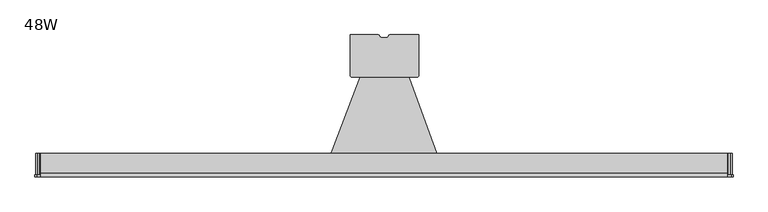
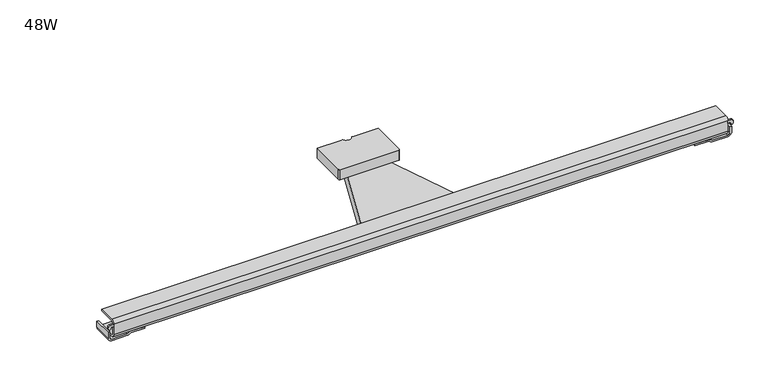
"""IFC4 building model written with IfcOpenShell, lengths in millimetres: furniture geometry, Steelcase Turnstone - Bivi - Accessories - Monitor Arm Table Mount : 48W."""

from ifc_helpers import new_model, si_unit, point, frame, frame_2d, origin, place, context, project, spatial, polyline, circle_curve, trimmed, segment, composite_curve, outline, extrude, source, transform, mapped, element, save


def furniture_48w_e2995653(model_context):
    return source(origin(), model_context, "Body", "SweptSolid", [
        extrude(outline(composite_curve([segment(polyline([(159.9850492, 267.6260521), (53.6515376, 267.6260521)]), True, "CONTINUOUS"), segment(trimmed(circle_curve(frame_2d((53.6515376, 269.8377216)), 2.2116695), [point((53.6515376, 267.6260521))], [point((51.4398681, 269.8377216))], False, "CARTESIAN"), True, "CONTINUOUS"), segment(polyline([(51.4398681, 269.8377216), (51.4398681, 336.626034), (96.429124, 336.626034)]), True, "CONTINUOUS"), segment(trimmed(circle_curve(frame_2d((96.3769126, 334.3703641)), 2.2562741), [point((96.429124, 336.626034))], [point((98.3973037, 335.3747509))], False, "CARTESIAN"), True, "CONTINUOUS"), segment(trimmed(circle_curve(frame_2d((104.4791205, 338.3981738)), 6.7918762), [point((98.3973037, 335.3747509))], [point((99.5126263, 333.7653003))], True, "CARTESIAN"), True, "CONTINUOUS"), segment(trimmed(circle_curve(frame_2d((104.4791205, 338.3981738)), 6.7918762), [point((99.5126263, 333.7653003))], [point((103.9615653, 331.6260458))], True, "CARTESIAN"), True, "CONTINUOUS"), segment(trimmed(circle_curve(frame_2d((106.0453771, 358.8923961)), 27.3458613), [point((103.9615653, 331.6260458))], [point((108.1291888, 331.6260458))], True, "CARTESIAN"), True, "CONTINUOUS"), segment(trimmed(circle_curve(frame_2d((107.6120183, 338.3931418)), 6.7868295), [point((108.1291888, 331.6260458))], [point((113.6913493, 335.3760591))], True, "CARTESIAN"), True, "CONTINUOUS"), segment(trimmed(circle_curve(frame_2d((115.7071375, 334.3756531)), 2.2503809), [point((113.6913493, 335.3760591))], [point((115.7071375, 336.626034))], False, "CARTESIAN"), True, "CONTINUOUS"), segment(polyline([(115.7071375, 336.626034), (162.2429472, 336.626034), (162.2429472, 269.8838873)]), True, "CONTINUOUS"), segment(trimmed(circle_curve(frame_2d((159.9850492, 269.8839501)), 2.257898), [point((162.2429472, 269.8838873))], [point((159.9850492, 267.6260521))], False, "CARTESIAN"), True, "CONTINUOUS")], self_intersect=False)), frame((0.0, 0.0, 691.6834103), z_axis=(0.0, 0.0, 1.0), x_axis=(1.0, 0.0, 0.0)), (0.0, 0.0, 1.0), 19.3004151),
        extrude(outline(polyline([(128.3372341, 317.6260494), (204.7367915, 107.7199906), (106.045569, 107.7199906), (6.7352254, 107.7199906), (86.0600715, 317.6260494), (106.045569, 317.6260494), (128.3372341, 317.6260494)])), frame((0.0, 0.0, 667.38344), z_axis=(0.0, 0.0, 1.0), x_axis=(1.0, 0.0, 0.0)), (0.0, 0.0, 1.0), 24.2999702),
        extrude(outline(composite_curve([segment(polyline([(674.8332545, -458.0963634), (674.8332545, -461.136431), (663.5926927, -461.136431)]), True, "CONTINUOUS"), segment(trimmed(circle_curve(frame_2d((663.5926927, -454.3769502)), 6.7594808), [point((663.5926927, -461.136431))], [point((656.8332119, -454.3769502))], False, "CARTESIAN"), True, "CONTINUOUS"), segment(polyline([(656.8332119, -454.3769502), (656.8332119, -426.1364852)]), True, "CONTINUOUS"), segment(trimmed(circle_curve(frame_2d((662.9130886, -426.1364852)), 6.0798767), [point((656.8332119, -426.1364852))], [point((658.2556541, -422.2283904))], False, "CARTESIAN"), True, "CONTINUOUS"), segment(trimmed(circle_curve(frame_2d((650.1984046, -415.4674804)), 10.5180405), [point((658.2556541, -422.2283904))], [point((659.8731426, -419.5940551))], True, "CARTESIAN"), True, "CONTINUOUS"), segment(polyline([(659.8731426, -419.5940551), (659.8731426, -394.1940551), (662.9128796, -394.1940551), (662.9128796, -420.4067795)]), True, "CONTINUOUS"), segment(trimmed(circle_curve(frame_2d((658.7545906, -419.9825532)), 4.1798726), [point((662.9128796, -420.4067795))], [point((661.2761093, -423.3162116))], False, "CARTESIAN"), True, "CONTINUOUS"), segment(trimmed(circle_curve(frame_2d((663.4093131, -426.1364852)), 3.5361704), [point((661.2761093, -423.3162116))], [point((659.8731426, -426.1364852))], True, "CARTESIAN"), True, "CONTINUOUS"), segment(polyline([(659.8731426, -426.1364852), (659.8731426, -454.4415467)]), True, "CONTINUOUS"), segment(trimmed(circle_curve(frame_2d((663.5279593, -454.4415467)), 3.6548167), [point((659.8731426, -454.4415467))], [point((663.5279593, -458.0963634))], True, "CARTESIAN"), True, "CONTINUOUS"), segment(polyline([(663.5279593, -458.0963634), (674.8332545, -458.0963634)]), True, "CONTINUOUS")], self_intersect=False)), frame((0.0, 107.8689915, 0.0), z_axis=(0.0, 1.0, 0.0), x_axis=(0.0, 0.0, 1.0)), (0.0, 0.0, 1.0), 35.0600232),
        extrude(outline(composite_curve([segment(polyline([(674.8332545, 670.1875014), (663.5279593, 670.1875014)]), True, "CONTINUOUS"), segment(trimmed(circle_curve(frame_2d((663.5279593, 666.5326846)), 3.6548167), [point((663.5279593, 670.1875014))], [point((659.8731426, 666.5326846))], True, "CARTESIAN"), True, "CONTINUOUS"), segment(polyline([(659.8731426, 666.5326846), (659.8731426, 638.2276231)]), True, "CONTINUOUS"), segment(trimmed(circle_curve(frame_2d((663.4093131, 638.2276231)), 3.5361704), [point((659.8731426, 638.2276231))], [point((661.2761093, 635.4073495))], True, "CARTESIAN"), True, "CONTINUOUS"), segment(trimmed(circle_curve(frame_2d((658.7545906, 632.0736911)), 4.1798726), [point((661.2761093, 635.4073495))], [point((662.9128796, 632.4979175))], False, "CARTESIAN"), True, "CONTINUOUS"), segment(polyline([(662.9128796, 632.4979175), (662.9128796, 606.285193), (659.8731426, 606.285193), (659.8731426, 631.685193)]), True, "CONTINUOUS"), segment(trimmed(circle_curve(frame_2d((650.1984046, 627.5586183)), 10.5180405), [point((659.8731426, 631.685193))], [point((658.2556541, 634.3195283))], True, "CARTESIAN"), True, "CONTINUOUS"), segment(trimmed(circle_curve(frame_2d((662.9130886, 638.2276231)), 6.0798767), [point((658.2556541, 634.3195283))], [point((656.8332119, 638.2276231))], False, "CARTESIAN"), True, "CONTINUOUS"), segment(polyline([(656.8332119, 638.2276231), (656.8332119, 666.4680881)]), True, "CONTINUOUS"), segment(trimmed(circle_curve(frame_2d((663.5926927, 666.4680881)), 6.7594808), [point((656.8332119, 666.4680881))], [point((663.5926927, 673.227569))], False, "CARTESIAN"), True, "CONTINUOUS"), segment(polyline([(663.5926927, 673.227569), (674.8332545, 673.227569), (674.8332545, 670.1875014)]), True, "CONTINUOUS")], self_intersect=False)), frame((0.0, 107.8689915, 0.0), z_axis=(0.0, 1.0, 0.0), x_axis=(0.0, 0.0, 1.0)), (0.0, 0.0, 1.0), 35.0600232),
        extrude(outline(composite_curve([segment(polyline([(689.360073, 671.0776214), (689.360073, 664.7276214), (684.9088679, 664.7276214), (684.9088679, 669.2254318)]), True, "CONTINUOUS"), segment(trimmed(circle_curve(frame_2d((683.9467759, 669.2254318)), 0.962092), [point((684.9088679, 669.2254318))], [point((683.9402076, 670.1875014))], True, "CARTESIAN"), True, "CONTINUOUS"), segment(polyline([(683.9402076, 670.1875014), (682.6846117, 670.1875014)]), True, "CONTINUOUS"), segment(trimmed(circle_curve(frame_2d((682.6846117, 672.2073133)), 2.019812), [point((682.6846117, 670.1875014))], [point((682.6846117, 674.2271253))], False, "CARTESIAN"), True, "CONTINUOUS"), segment(polyline([(682.6846117, 674.2271253), (686.3728817, 674.2271253)]), True, "CONTINUOUS"), segment(trimmed(circle_curve(frame_2d((686.2061594, 671.0776214)), 3.1539136), [point((686.3728817, 674.2271253))], [point((689.360073, 671.0776214))], False, "CARTESIAN"), True, "CONTINUOUS")], self_intersect=False)), frame((0.0, 104.8487659, 0.0), z_axis=(0.0, 1.0, 0.0), x_axis=(0.0, 0.0, 1.0)), (0.0, 0.0, 1.0), 3.0328938),
        extrude(outline(composite_curve([segment(trimmed(circle_curve(frame_2d((686.2061594, -458.9864835)), 3.1539136), [point((689.360073, -458.9864835))], [point((686.3728817, -462.1359874))], False, "CARTESIAN"), True, "CONTINUOUS"), segment(polyline([(686.3728817, -462.1359874), (682.6846117, -462.1359874)]), True, "CONTINUOUS"), segment(trimmed(circle_curve(frame_2d((682.6846117, -460.1161754)), 2.019812), [point((682.6846117, -462.1359874))], [point((682.6846117, -458.0963634))], False, "CARTESIAN"), True, "CONTINUOUS"), segment(polyline([(682.6846117, -458.0963634), (683.9402076, -458.0963634)]), True, "CONTINUOUS"), segment(trimmed(circle_curve(frame_2d((683.9467759, -457.1342939)), 0.962092), [point((683.9402076, -458.0963634))], [point((684.9088679, -457.1342939))], True, "CARTESIAN"), True, "CONTINUOUS"), segment(polyline([(684.9088679, -457.1342939), (684.9088679, -452.6364835), (689.360073, -452.6364835), (689.360073, -458.9864835)]), True, "CONTINUOUS")], self_intersect=False)), frame((0.0, 104.8487659, 0.0), z_axis=(0.0, 1.0, 0.0), x_axis=(0.0, 0.0, 1.0)), (0.0, 0.0, 1.0), 3.0328938),
        extrude(outline(composite_curve([segment(polyline([(142.9289017, 692.3731344), (111.1181314, 692.3731344)]), True, "CONTINUOUS"), segment(trimmed(circle_curve(frame_2d((111.1181314, 688.9768169)), 3.3963175), [point((111.1181314, 692.3731344))], [point((107.7218139, 688.9768169))], True, "CARTESIAN"), True, "CONTINUOUS"), segment(polyline([(107.7218139, 688.9768169), (107.7218139, 669.1557803)]), True, "CONTINUOUS"), segment(trimmed(circle_curve(frame_2d((111.1222674, 669.1557803)), 3.4004535), [point((107.7218139, 669.1557803))], [point((111.1222674, 665.7553268))], True, "CARTESIAN"), True, "CONTINUOUS"), segment(polyline([(111.1222674, 665.7553268), (142.9289017, 665.7553268), (142.9289017, 662.9128796), (111.1987659, 662.9128796)]), True, "CONTINUOUS"), segment(trimmed(circle_curve(frame_2d((111.1987659, 669.2628796)), 6.35), [point((111.1987659, 662.9128796))], [point((104.8487659, 669.2628796))], False, "CARTESIAN"), True, "CONTINUOUS"), segment(polyline([(104.8487659, 669.2628796), (104.8487659, 689.5089011)]), True, "CONTINUOUS"), segment(trimmed(circle_curve(frame_2d((110.7527955, 689.5089011)), 5.9040296), [point((104.8487659, 689.5089011))], [point((110.7527955, 695.4129307))], False, "CARTESIAN"), True, "CONTINUOUS"), segment(polyline([(110.7527955, 695.4129307), (142.9289017, 695.4129307), (142.9289017, 692.3731344)]), True, "CONTINUOUS")], self_intersect=False)), frame((-452.6368098, 0.0, 0.0), z_axis=(1.0, 0.0, 0.0), x_axis=(0.0, 1.0, 0.0)), (0.0, 0.0, 1.0), 1117.3644312),
    ])


if __name__ == "__main__":
    model = new_model("IFC4")
    model_context = context("Model", 3, world=origin())
    ifc_project = project(units=[si_unit("LENGTHUNIT", "METRE", prefix="MILLI")], contexts=[model_context])
    site = spatial("IfcSite", under=ifc_project)
    building = spatial("IfcBuilding", under=site)
    placement = place(None, origin())
    furniture_48w_shape = furniture_48w_e2995653(model_context)
    element("IfcFurniture", 1, ObjectType="Steelcase Turnstone - Bivi - Accessories - Monitor Arm Table Mount : 48W", at=placement, inside=building, context=model_context, shape_type="MappedRepresentation", body=[
        mapped(furniture_48w_shape, transform((0.0, 0.0, 0.0), x_axis=(1.0, 0.0, 0.0), y_axis=(0.0, 1.0, 0.0), z_axis=(0.0, 0.0, 1.0))),
    ])
    save(model, "model.ifc")
